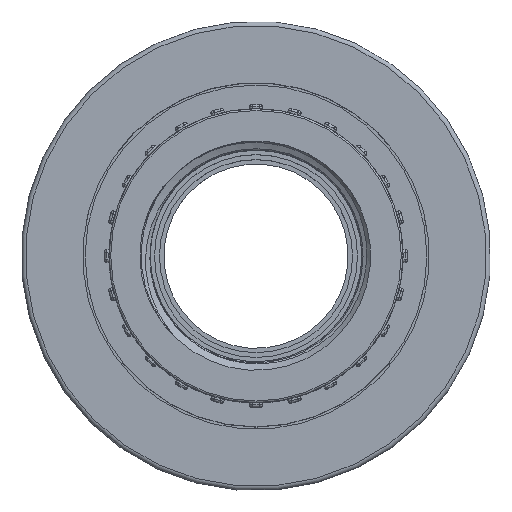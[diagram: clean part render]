
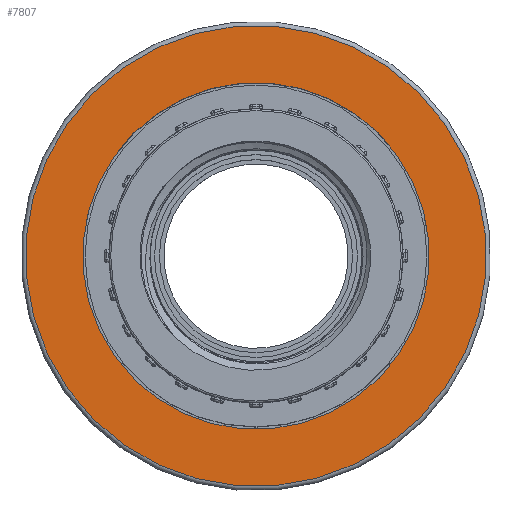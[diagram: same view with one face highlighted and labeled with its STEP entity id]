
A CAD part, top view. The second image highlights one B-rep face of the part: STEP entity #7807.
In plain terms, the highlighted planar face has unit normal (0, 0, 1).
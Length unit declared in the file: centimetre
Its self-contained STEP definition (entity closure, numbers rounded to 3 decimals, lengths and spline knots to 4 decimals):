
#1457=FACE_BOUND('',#2216,.T.);
#1765=FACE_OUTER_BOUND('',#2215,.T.);
#2215=EDGE_LOOP('',(#6202));
#2216=EDGE_LOOP('',(#6203));
#2667=CIRCLE('',#8493,2.625);
#2669=CIRCLE('',#8496,1.975);
#3330=VERTEX_POINT('',#19749);
#3332=VERTEX_POINT('',#19754);
#4330=EDGE_CURVE('',#3330,#3330,#2667,.T.);
#4332=EDGE_CURVE('',#3332,#3332,#2669,.T.);
#6202=ORIENTED_EDGE('',*,*,#4330,.F.);
#6203=ORIENTED_EDGE('',*,*,#4332,.T.);
#7045=PLANE('',#8495);
#7807=ADVANCED_FACE('',(#1765,#1457),#7045,.T.);
#8493=AXIS2_PLACEMENT_3D('',#19750,#10258,#10259);
#8495=AXIS2_PLACEMENT_3D('',#19753,#10262,#10263);
#8496=AXIS2_PLACEMENT_3D('',#19755,#10264,#10265);
#10258=DIRECTION('center_axis',(0.,0.,
-1.));
#10259=DIRECTION('ref_axis',(0.419,0.908,0.));
#10262=DIRECTION('center_axis',(0.,0.,
1.));
#10263=DIRECTION('ref_axis',(0.908,-0.419,0.));
#10264=DIRECTION('center_axis',(0.,0.,
-1.));
#10265=DIRECTION('ref_axis',(0.419,0.908,0.));
#19749=CARTESIAN_POINT('',(-1.1009,-2.383,1.46));
#19750=CARTESIAN_POINT('Origin',(0.,0.,
1.46));
#19753=CARTESIAN_POINT('Origin',(-1.1218,-2.4284,1.46));
#19754=CARTESIAN_POINT('',(-0.8283,-1.7929,1.46));
#19755=CARTESIAN_POINT('Origin',(0.,0.,
1.46));
